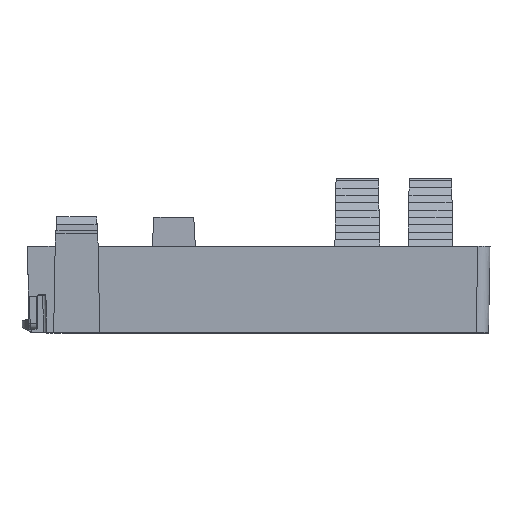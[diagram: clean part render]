
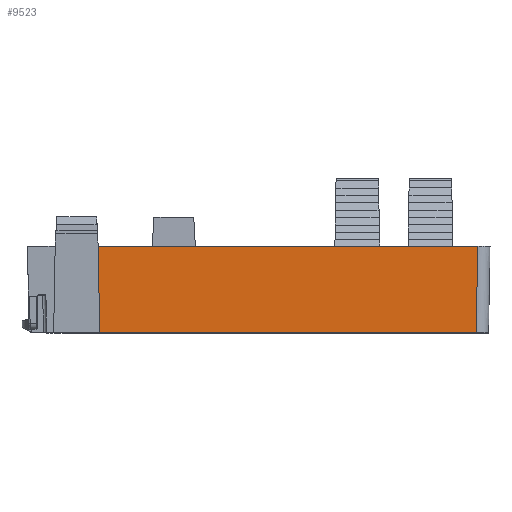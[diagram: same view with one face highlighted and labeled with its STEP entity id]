
A CAD part, top view. The second image highlights one B-rep face of the part: STEP entity #9523.
In plain terms, the highlighted planar face has unit normal (0, -0.018, 1).
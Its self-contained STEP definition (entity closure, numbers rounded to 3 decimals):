
#1127 = CARTESIAN_POINT ( 'NONE',  ( 11.5, 14., 28.8 ) ) ;
#4125 = LINE ( 'NONE', #25224, #33862 ) ;
#4365 = CARTESIAN_POINT ( 'NONE',  ( 73., 0., 28.556 ) ) ;
#4714 = EDGE_CURVE ( 'NONE', #36775, #21402, #4125, .T. ) ;
#5070 = VERTEX_POINT ( 'NONE', #24690 ) ;
#8878 = CARTESIAN_POINT ( 'NONE',  ( -0.44, 0., 28.556 ) ) ;
#9523 = ADVANCED_FACE ( 'NONE', ( #19016 ), #30810, .T. ) ;
#10008 = LINE ( 'NONE', #8878, #24445 ) ;
#11778 = DIRECTION ( 'NONE',  ( 1., 0., 0. ) ) ;
#12302 = LINE ( 'NONE', #22083, #34361 ) ;
#13573 = DIRECTION ( 'NONE',  ( 0., -0.017, 1. ) ) ;
#15849 = EDGE_CURVE ( 'NONE', #36775, #5070, #29532, .T. ) ;
#16158 = ORIENTED_EDGE ( 'NONE', *, *, #4714, .T. ) ;
#16514 = ORIENTED_EDGE ( 'NONE', *, *, #28033, .T. ) ;
#17484 = ORIENTED_EDGE ( 'NONE', *, *, #15849, .F. ) ;
#19016 = FACE_OUTER_BOUND ( 'NONE', #22415, .T. ) ;
#19203 = CARTESIAN_POINT ( 'NONE',  ( -0.48, 14., 28.8 ) ) ;
#19361 = AXIS2_PLACEMENT_3D ( 'NONE', #25035, #13573, #33712 ) ;
#21402 = VERTEX_POINT ( 'NONE', #31326 ) ;
#21540 = EDGE_CURVE ( 'NONE', #21402, #35899, #10008, .T. ) ;
#22083 = CARTESIAN_POINT ( 'NONE',  ( 73., 0., 28.556 ) ) ;
#22096 = DIRECTION ( 'NONE',  ( 1., 0., 0. ) ) ;
#22415 = EDGE_LOOP ( 'NONE', ( #31792, #16514, #17484, #16158 ) ) ;
#22786 = VECTOR ( 'NONE', #22096, 1000. ) ;
#24445 = VECTOR ( 'NONE', #11778, 1000. ) ;
#24690 = CARTESIAN_POINT ( 'NONE',  ( 73.245, 14., 28.8 ) ) ;
#24951 = DIRECTION ( 'NONE',  ( 0.017, 1., 0.017 ) ) ;
#25035 = CARTESIAN_POINT ( 'NONE',  ( -0.44, -0.28, 28.551 ) ) ;
#25224 = CARTESIAN_POINT ( 'NONE',  ( 11.5, 14., 28.8 ) ) ;
#28033 = EDGE_CURVE ( 'NONE', #35899, #5070, #12302, .T. ) ;
#28094 = DIRECTION ( 'NONE',  ( 0.017, -1., -0.017 ) ) ;
#29532 = LINE ( 'NONE', #19203, #22786 ) ;
#30810 = PLANE ( 'NONE',  #19361 ) ;
#31326 = CARTESIAN_POINT ( 'NONE',  ( 11.744, 0., 28.556 ) ) ;
#31792 = ORIENTED_EDGE ( 'NONE', *, *, #21540, .T. ) ;
#33712 = DIRECTION ( 'NONE',  ( 0., -1., -0.017 ) ) ;
#33862 = VECTOR ( 'NONE', #28094, 1000. ) ;
#34361 = VECTOR ( 'NONE', #24951, 1000. ) ;
#35899 = VERTEX_POINT ( 'NONE', #4365 ) ;
#36775 = VERTEX_POINT ( 'NONE', #1127 ) ;
